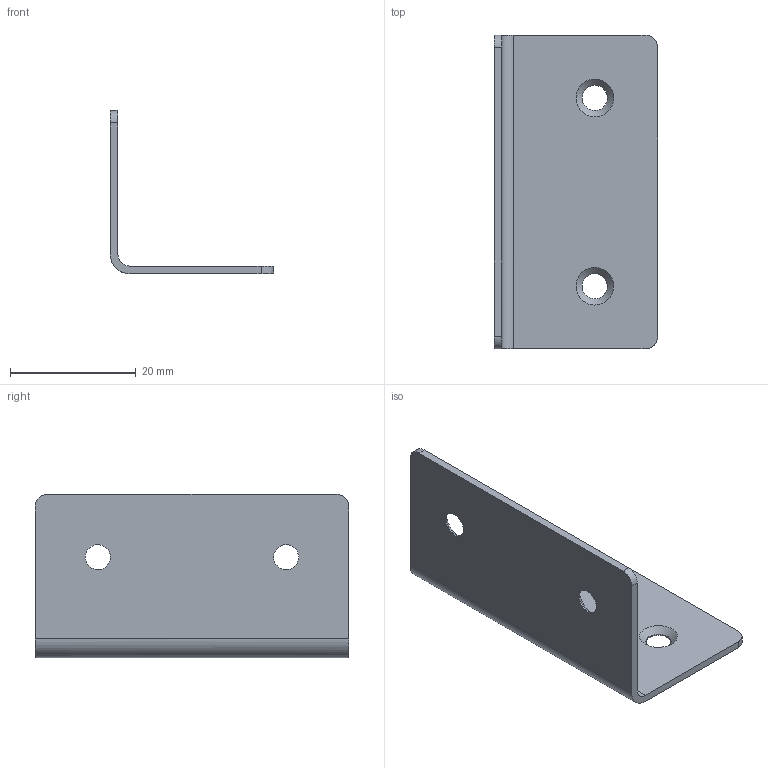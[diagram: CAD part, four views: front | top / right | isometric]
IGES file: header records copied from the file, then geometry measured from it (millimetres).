
Global section: file name: DR_S-AGS5026; native system: Autodesk Inventor 2015; preprocessor: unknown; author: Administrator; date: 20171013.080925; units: millimetre
Bounding box: 26 x 50 x 26 mm (x, y, z)
Volume: 2892.4 mm3; surface area: 5141 mm2
Topology: 1 solids, 1 shells, 22 faces, 64 edges, 44 vertices
Faces by surface type: bspline 22
